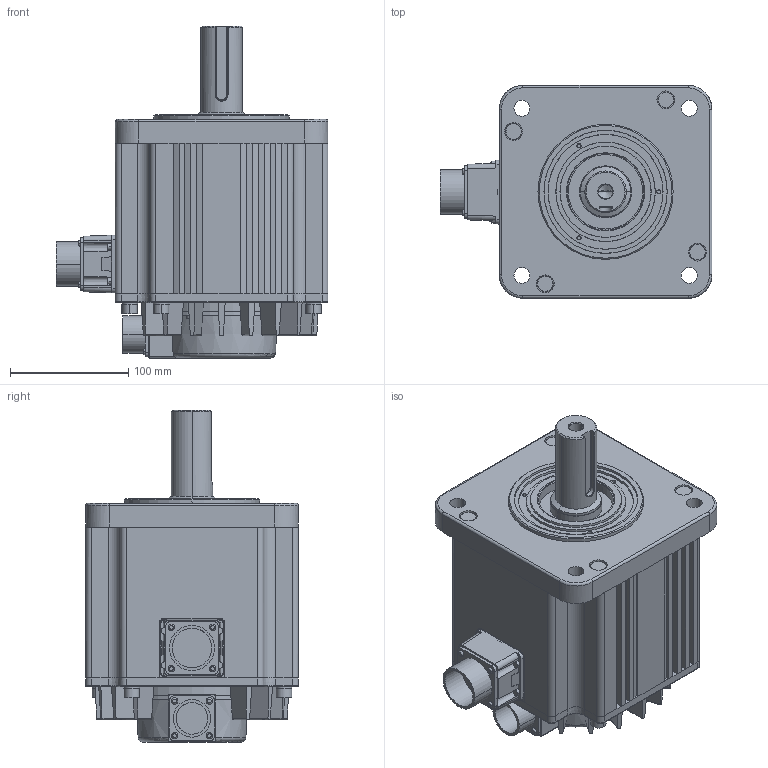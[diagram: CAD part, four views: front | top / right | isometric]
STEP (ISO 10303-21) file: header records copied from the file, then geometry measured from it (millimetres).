
FILE_DESCRIPTION((''),'2;1');
FILE_NAME('ECMA-EX1830RS','2015-04-02T',('MIO.CHEN'),(''),'PRO/ENGINEER BY PARAMETRIC TECHNOLOGY CORPORATION, 2010180','PRO/ENGINEER BY PARAMETRIC TECHNOLOGY CORPORATION, 2010180','');
FILE_SCHEMA(('AUTOMOTIVE_DESIGN_CC2 { 1 2 10303 214 -1 1 5 2 }'));
Length unit declared in the file: millimetre
Products named in the file (1): ECMA-EX1830RS
Bounding box: 230.02 x 180 x 280.8 mm (x, y, z)
Volume: 5051417.7 mm3; surface area: 283378.7 mm2
Topology: 1 solids, 1 shells, 597 faces, 1428 edges, 904 vertices
Faces by surface type: plane 319, cylinder 187, cone 50, bspline 27, torus 14
Entity records: 18423 total; most frequent: CARTESIAN_POINT 4572, ORIENTED_EDGE 2852, DIRECTION 2827, EDGE_CURVE 1426, AXIS2_PLACEMENT_3D 1005, VERTEX_POINT 904, VECTOR 817, LINE 817
